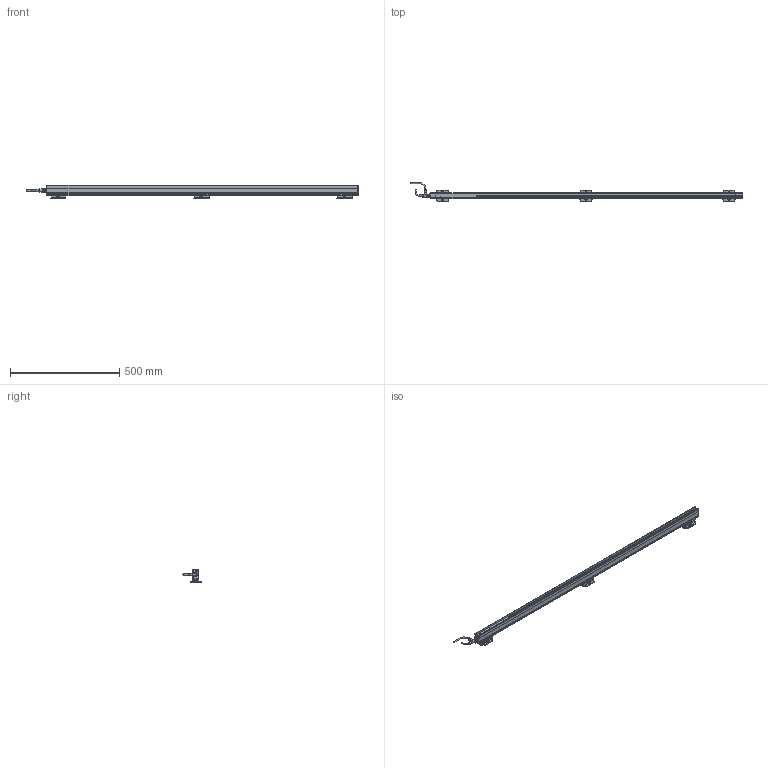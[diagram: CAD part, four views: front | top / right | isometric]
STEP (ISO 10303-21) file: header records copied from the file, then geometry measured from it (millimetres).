
FILE_DESCRIPTION(('Bauteilbeschreibung','HiCAD-Model','HiCAD-STEP-TRANSLATION','Bauteilbeschreibung'),'2;1');
FILE_NAME('PERFORMAXIQEASY_1350-1440_3D.STP','2014-03-05T11:42:30+00:00',('Konstrukteur'),('Konstrukteur Firma GmbH'),' HiCAD 2011, Step 1600.0 ','HiCAD 2011','confidential');
FILE_SCHEMA(('AUTOMOTIVE_DESIGN { 1 2 10303 214 0 1 1 1 }'));
Products named in the file (43): PERFORMAXIQEASY_1350_1440_3D; A_PERFORMAX IQ EASY 1350_1440; A_PERFORMAX IQ EASY SPEED; A_CAP DE; A_CAP CE_5; GROUP; PIN; GROUP0; PIN0; LED_2C_3MM; LED02C03MM; A519020315_CONNECTOR APPLIANCE; A_INSERT; A_CONTACTS; A_HOUSING; A_PROFILE; A_POTTING; A532000100_BRACKET BARS_ MOUNT; A_SIDE PIECE; A0SIDE0PIECE; A_BRACKET SMALL; A_SLIDE PIECE; A5320001000BRACKET0BARS00MOUNT; A0SIDE0PIECE0; A0SIDE0PIECE1; A0BRACKET0SMALL; A0SLIDE0PIECE; A5320001000BRACKET0BARS00MOUNT0; A0SIDE0PIECE2; A0SIDE0PIECE3; A0BRACKET0SMALL0; A0SLIDE0PIECE0; A_CONNECTOR STRAIGHT; EXTRUDED SOLID_0; DRAAD GEBOGEN; REVOLVED SOLID_1; REVOLVED SOLID_3; A_CONNECTOR ANGLED; REVOLVED0SOLID01; EXTRUDED0SOLID00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
Assembly tree (42 placements, depth 5):
  PERFORMAXIQEASY_1350_1440_3D
    A_PERFORMAX IQ EASY 1350_1440
      A_PERFORMAX IQ EASY SPEED
        A_CAP DE
        A_CAP CE_5
        GROUP
          PIN
        GROUP0
          PIN0
        LED_2C_3MM
        LED02C03MM
        A519020315_CONNECTOR APPLIANCE
          A_INSERT
          A_CONTACTS
          A_HOUSING
        A_PROFILE
        A_POTTING
      A532000100_BRACKET BARS_ MOUNT
        A_SIDE PIECE
        A0SIDE0PIECE
        A_BRACKET SMALL
        A_SLIDE PIECE
      A5320001000BRACKET0BARS00MOUNT
        A0SIDE0PIECE0
        A0SIDE0PIECE1
        A0BRACKET0SMALL
        A0SLIDE0PIECE
      A5320001000BRACKET0BARS00MOUNT0
        A0SIDE0PIECE2
        A0SIDE0PIECE3
        A0BRACKET0SMALL0
        A0SLIDE0PIECE0
      A_CONNECTOR STRAIGHT
        EXTRUDED SOLID_0
        DRAAD GEBOGEN
        REVOLVED SOLID_1
        REVOLVED SOLID_3
      A_CONNECTOR ANGLED
        REVOLVED0SOLID01
        EXTRUDED0SOLID00
        C_EDGE SWEEP_0
        REVOLVED SOLID_2
        REVOLVED0SOLID03
Bounding box: 1517.89 x 84.26 x 63.13 mm (x, y, z)
Volume: 1503580.5 mm3; surface area: 385553.7 mm2
Topology: 37 solids, 37 shells, 2679 faces, 6859 edges, 4095 vertices
Faces by surface type: cylinder 1117, plane 1033, sphere 167, torus 158, bspline 128, cone 76
Full cylindrical faces by diameter (mm): 0.8 x10, 1 x5, 2.387 x6, 3 x15, 3.1 x1, 4.2 x2, 5 x4, 5.5 x15, 8 x2, 8.2 x1, 8.4 x2, 8.945 x1, 9 x2, 10.2 x1, 10.5 x3, 11 x1, 12 x3, 12.8 x1, 13.8 x4, 14.5 x3
Entity records: 123325 total; most frequent: CARTESIAN_POINT 28458, DIRECTION 13337, ORIENTED_EDGE 12962, EDGE_CURVE 6481, COLOUR_RGB 6168, PRESENTATION_STYLE_ASSIGNMENT 6168, OVER_RIDING_STYLED_ITEM 6136, CURVE_STYLE 6131
